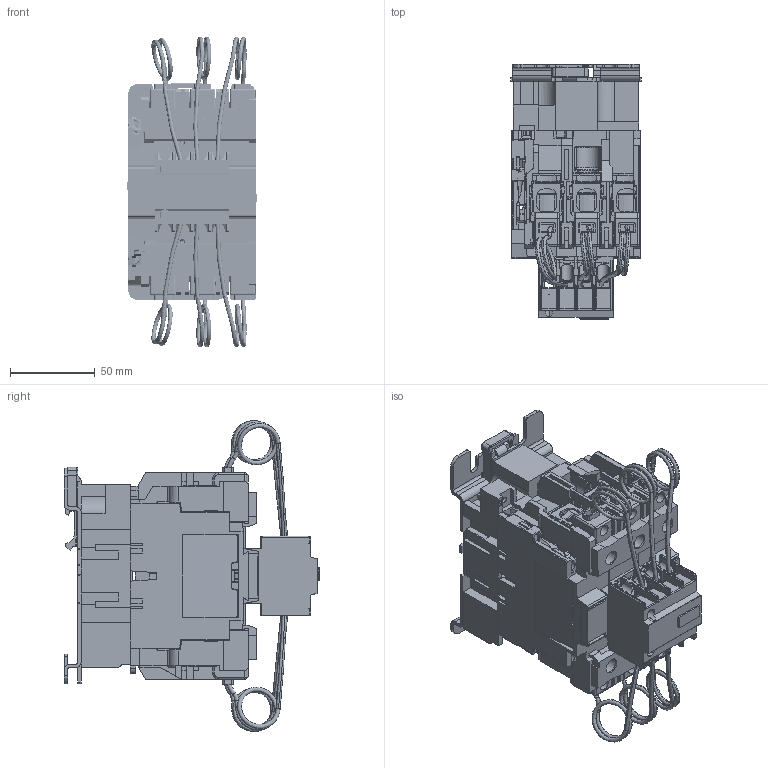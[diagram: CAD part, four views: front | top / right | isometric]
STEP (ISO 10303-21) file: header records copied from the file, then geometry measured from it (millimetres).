
FILE_DESCRIPTION(/* description */ (''),/* implementation_level */ '2;1');
FILE_NAME(/* name */ 'm1419_ent-kt-33_3D.stp',/* time_stamp */ '2026-04-13T15:32:00+03:00',/* author */ (''),/* organization */ (''),/* preprocessor_version */ 'ST-DEVELOPER v20',/* originating_system */ 'SIEMENS PLM Software NX2406.5001',/* authorisation */ '');
FILE_SCHEMA (('AP203_CONFIGURATION_CONTROLLED_3D_DESIGN_OF_MECHANICAL_PARTS_AND_ASSEMBLIES_MIM_LF { 1 0 10303 403 2 1 2}'));
Products named in the file (1): model1
Bounding box: 77 x 150.75 x 183.3 mm (x, y, z)
Volume: 369172.6 mm3; surface area: 281571.6 mm2
Topology: 1 solids, 11 shells, 7014 faces, 21220 edges, 13845 vertices
Faces by surface type: plane 5311, cylinder 1408, torus 173, cone 47, bspline 43, sphere 32
Entity records: 241991 total; most frequent: CARTESIAN_POINT 50521, ORIENTED_EDGE 42372, DIRECTION 37201, EDGE_CURVE 21186, LINE 16741, VECTOR 16741, VERTEX_POINT 13845, AXIS2_PLACEMENT_3D 10230
